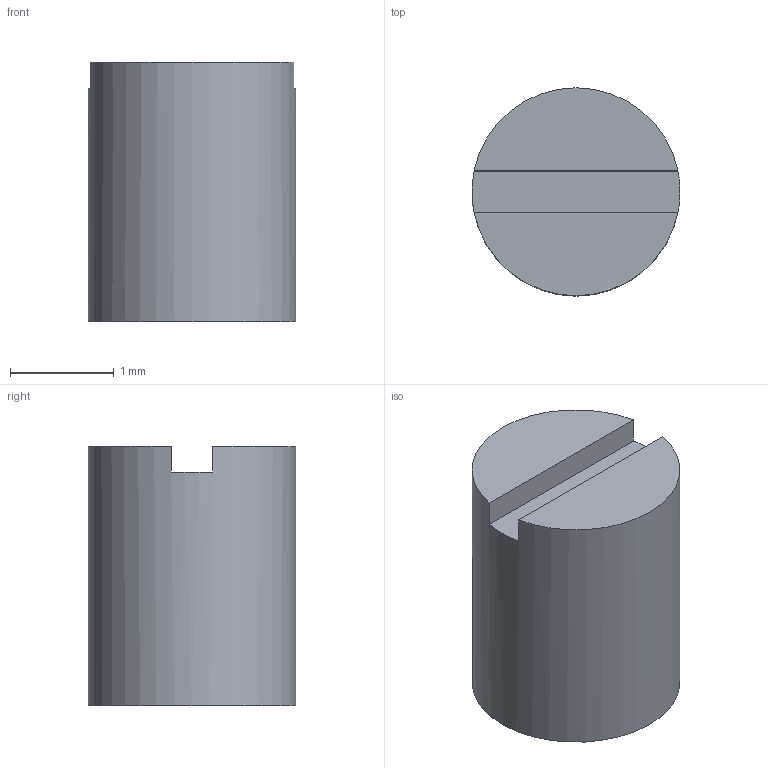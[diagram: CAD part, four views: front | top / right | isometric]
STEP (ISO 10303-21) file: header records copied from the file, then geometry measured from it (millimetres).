
FILE_DESCRIPTION(('Open CASCADE Model'),'2;1');
FILE_NAME('Open CASCADE Shape Model','2026-09-06T11:31:19',('Author'),( 'Open CASCADE'),'Open CASCADE STEP processor 7.7','Open CASCADE 7.7' ,'Unknown');
FILE_SCHEMA(('AUTOMOTIVE_DESIGN { 1 0 10303 214 1 1 1 1 }'));
Length unit declared in the file: millimetre
Products named in the file (1): Open CASCADE STEP translator 7.7 9
Bounding box: 2 x 2 x 2.5 mm (x, y, z)
Volume: 7.7 mm3; surface area: 22.8 mm2
Topology: 1 solids, 1 shells, 7 faces, 15 edges, 10 vertices
Faces by surface type: plane 6, cylinder 1
Full cylindrical faces by diameter (mm): 2 x1
Entity records: 397 total; most frequent: CARTESIAN_POINT 93, DIRECTION 52, ORIENTED_EDGE 30, PCURVE 30, DEFINITIONAL_REPRESENTATION 30, LINE 21, VECTOR 21, EDGE_CURVE 15
